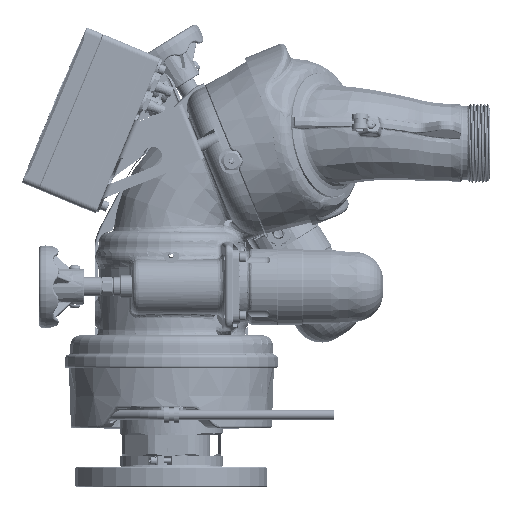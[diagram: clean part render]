
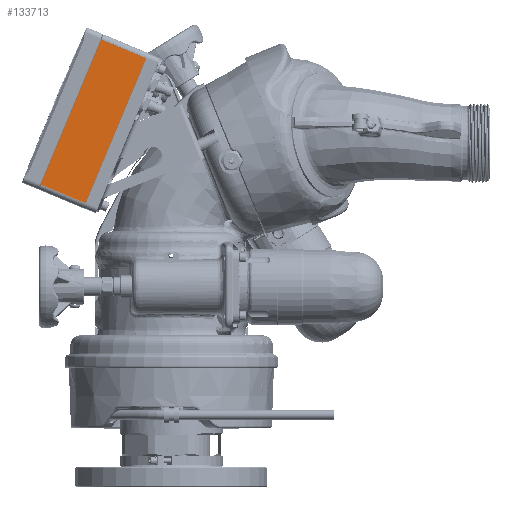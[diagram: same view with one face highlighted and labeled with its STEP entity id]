
A CAD part, top view. The second image highlights one B-rep face of the part: STEP entity #133713.
In plain terms, the highlighted planar face has unit normal (0, 0, 1).
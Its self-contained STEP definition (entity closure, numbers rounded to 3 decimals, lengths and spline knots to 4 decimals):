
#2845 = VERTEX_POINT ( 'NONE', #90968 ) ;
#4228 = ORIENTED_EDGE ( 'NONE', *, *, #65512, .F. ) ;
#5272 = CARTESIAN_POINT ( 'NONE',  ( -6.1973, 7.8158, 2.8714 ) ) ;
#18141 = VERTEX_POINT ( 'NONE', #5272 ) ;
#23229 = AXIS2_PLACEMENT_3D ( 'NONE', #124515, #77189, #30615 ) ;
#30615 = DIRECTION ( 'NONE',  ( 0.386, 0.923, 0. ) ) ;
#37690 = VECTOR ( 'NONE', #200003, 39.3701 ) ;
#38154 = CARTESIAN_POINT ( 'NONE',  ( -4.3705, 7.0521, 2.8714 ) ) ;
#42126 = VERTEX_POINT ( 'NONE', #193127 ) ;
#46312 = PLANE ( 'NONE',  #23229 ) ;
#57057 = VERTEX_POINT ( 'NONE', #87270 ) ;
#65512 = EDGE_CURVE ( 'NONE', #2845, #18141, #94109, .T. ) ;
#67914 = ORIENTED_EDGE ( 'NONE', *, *, #157952, .T. ) ;
#73682 = EDGE_LOOP ( 'NONE', ( #192875, #67914, #172791, #4228 ) ) ;
#77189 = DIRECTION ( 'NONE',  ( 0., 0., 1. ) ) ;
#87270 = CARTESIAN_POINT ( 'NONE',  ( -6.808, 1.4812, 2.8714 ) ) ;
#90968 = CARTESIAN_POINT ( 'NONE',  ( -8.5425, 2.2064, 2.8714 ) ) ;
#94109 = LINE ( 'NONE', #169144, #37690 ) ;
#98782 = DIRECTION ( 'NONE',  ( 0.386, 0.923, 0. ) ) ;
#107625 = FACE_OUTER_BOUND ( 'NONE', #73682, .T. ) ;
#111013 = LINE ( 'NONE', #160450, #147903 ) ;
#112823 = EDGE_CURVE ( 'NONE', #57057, #2845, #111013, .T. ) ;
#116286 = DIRECTION ( 'NONE',  ( -0.923, 0.386, 0. ) ) ;
#117814 = VECTOR ( 'NONE', #98782, 39.3701 ) ;
#122704 = LINE ( 'NONE', #148150, #117814 ) ;
#124515 = CARTESIAN_POINT ( 'NONE',  ( -6.7157, 1.4426, 2.8714 ) ) ;
#132903 = VECTOR ( 'NONE', #116286, 39.3701 ) ;
#133713 = ADVANCED_FACE ( 'NONE', ( #107625 ), #46312, .T. ) ;
#137840 = LINE ( 'NONE', #38154, #132903 ) ;
#147903 = VECTOR ( 'NONE', #181704, 39.3701 ) ;
#148150 = CARTESIAN_POINT ( 'NONE',  ( -4.4628, 7.0907, 2.8714 ) ) ;
#157952 = EDGE_CURVE ( 'NONE', #57057, #42126, #122704, .T. ) ;
#160450 = CARTESIAN_POINT ( 'NONE',  ( -6.7157, 1.4426, 2.8714 ) ) ;
#169144 = CARTESIAN_POINT ( 'NONE',  ( -8.5425, 2.2064, 2.8714 ) ) ;
#172791 = ORIENTED_EDGE ( 'NONE', *, *, #178425, .T. ) ;
#178425 = EDGE_CURVE ( 'NONE', #42126, #18141, #137840, .T. ) ;
#181704 = DIRECTION ( 'NONE',  ( -0.923, 0.386, 0. ) ) ;
#192875 = ORIENTED_EDGE ( 'NONE', *, *, #112823, .F. ) ;
#193127 = CARTESIAN_POINT ( 'NONE',  ( -4.4628, 7.0907, 2.8714 ) ) ;
#200003 = DIRECTION ( 'NONE',  ( 0.386, 0.923, 0. ) ) ;
